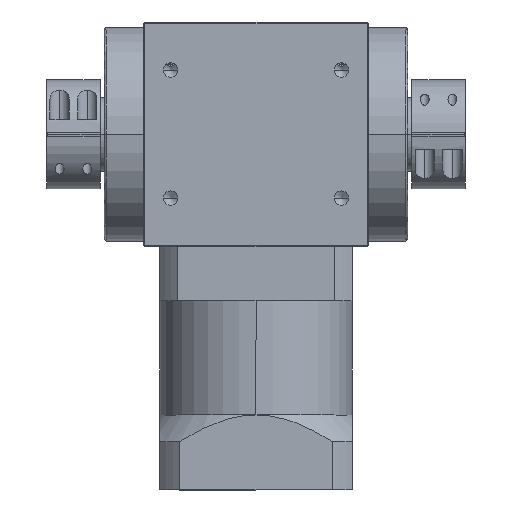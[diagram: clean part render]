
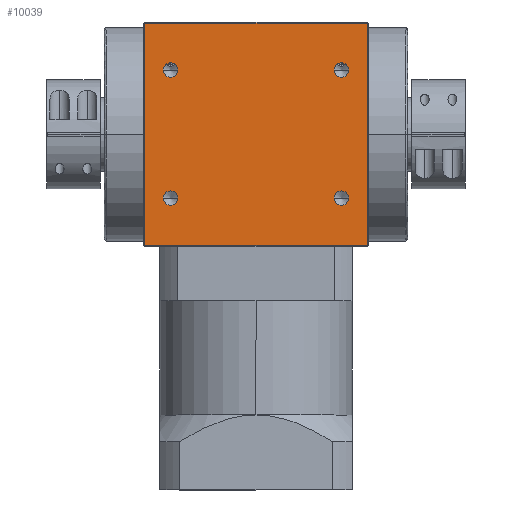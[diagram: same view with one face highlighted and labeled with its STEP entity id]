
A CAD part, top view. The second image highlights one B-rep face of the part: STEP entity #10039.
In plain terms, the highlighted planar face has unit normal (0, 0, 1).
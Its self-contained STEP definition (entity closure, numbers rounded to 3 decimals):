
#32 = FACE_BOUND ( 'NONE', #9019, .T. ) ;
#255 = DIRECTION ( 'NONE',  ( 1., 0., 0. ) ) ;
#267 = DIRECTION ( 'NONE',  ( 0., 0., 1. ) ) ;
#272 = CARTESIAN_POINT ( 'NONE',  ( -40., 30., 52.5 ) ) ;
#285 = AXIS2_PLACEMENT_3D ( 'NONE', #4742, #7116, #4005 ) ;
#286 = DIRECTION ( 'NONE',  ( 0., 1., 0. ) ) ;
#287 = CARTESIAN_POINT ( 'NONE',  ( -52., -52., 52.5 ) ) ;
#545 = DIRECTION ( 'NONE',  ( 1., 0., 0. ) ) ;
#546 = DIRECTION ( 'NONE',  ( 0., 0., 1. ) ) ;
#560 = CARTESIAN_POINT ( 'NONE',  ( -40., 30., 52.5 ) ) ;
#839 = DIRECTION ( 'NONE',  ( 1., 0., 0. ) ) ;
#841 = DIRECTION ( 'NONE',  ( 0., 0., 1. ) ) ;
#849 = CARTESIAN_POINT ( 'NONE',  ( -40., -30., 52.5 ) ) ;
#899 = CARTESIAN_POINT ( 'NONE',  ( -36.6, 30., 52.5 ) ) ;
#1059 = VERTEX_POINT ( 'NONE', #4650 ) ;
#1173 = CIRCLE ( 'NONE', #5613, 3.4 ) ;
#1226 = CARTESIAN_POINT ( 'NONE',  ( -36.6, -30., 52.5 ) ) ;
#1234 = CIRCLE ( 'NONE', #5748, 3.4 ) ;
#1328 = CARTESIAN_POINT ( 'NONE',  ( -43.4, -30., 52.5 ) ) ;
#1358 = CARTESIAN_POINT ( 'NONE',  ( 52., -52., 52.5 ) ) ;
#1427 = CARTESIAN_POINT ( 'NONE',  ( -40., -30., 52.5 ) ) ;
#1461 = DIRECTION ( 'NONE',  ( 0., 0., 1. ) ) ;
#1547 = DIRECTION ( 'NONE',  ( 1., 0., 0. ) ) ;
#1553 = CIRCLE ( 'NONE', #6099, 3.4 ) ;
#1641 = AXIS2_PLACEMENT_3D ( 'NONE', #7879, #7870, #7868 ) ;
#1703 = FACE_BOUND ( 'NONE', #10840, .T. ) ;
#1716 = ORIENTED_EDGE ( 'NONE', *, *, #2122, .F. ) ;
#1744 = VERTEX_POINT ( 'NONE', #2269 ) ;
#1901 = ORIENTED_EDGE ( 'NONE', *, *, #2329, .F. ) ;
#2122 = EDGE_CURVE ( 'NONE', #4533, #4570, #1234, .T. ) ;
#2143 = CARTESIAN_POINT ( 'NONE',  ( 43.4, 30., 52.5 ) ) ;
#2145 = CARTESIAN_POINT ( 'NONE',  ( 36.6, 30., 52.5 ) ) ;
#2180 = EDGE_CURVE ( 'NONE', #7622, #5166, #1173, .T. ) ;
#2223 = CIRCLE ( 'NONE', #6077, 3.4 ) ;
#2257 = ORIENTED_EDGE ( 'NONE', *, *, #8417, .F. ) ;
#2269 = CARTESIAN_POINT ( 'NONE',  ( 36.6, -30., 52.5 ) ) ;
#2329 = EDGE_CURVE ( 'NONE', #1059, #1744, #2223, .T. ) ;
#2409 = ORIENTED_EDGE ( 'NONE', *, *, #7608, .T. ) ;
#2517 = FACE_BOUND ( 'NONE', #10559, .T. ) ;
#2838 = DIRECTION ( 'NONE',  ( -1., 0., 0. ) ) ;
#3140 = VERTEX_POINT ( 'NONE', #6796 ) ;
#3206 = VERTEX_POINT ( 'NONE', #6520 ) ;
#3246 = ORIENTED_EDGE ( 'NONE', *, *, #8473, .F. ) ;
#3419 = VERTEX_POINT ( 'NONE', #5707 ) ;
#3622 = DIRECTION ( 'NONE',  ( 0., -1., 0. ) ) ;
#3782 = VERTEX_POINT ( 'NONE', #4577 ) ;
#3893 = FACE_OUTER_BOUND ( 'NONE', #8966, .T. ) ;
#3974 = AXIS2_PLACEMENT_3D ( 'NONE', #1427, #1461, #1547 ) ;
#4005 = DIRECTION ( 'NONE',  ( 1., 0., 0. ) ) ;
#4406 = LINE ( 'NONE', #287, #4684 ) ;
#4412 = CARTESIAN_POINT ( 'NONE',  ( -43.4, 30., 52.5 ) ) ;
#4416 = CIRCLE ( 'NONE', #7791, 3.4 ) ;
#4533 = VERTEX_POINT ( 'NONE', #1328 ) ;
#4570 = VERTEX_POINT ( 'NONE', #1226 ) ;
#4577 = CARTESIAN_POINT ( 'NONE',  ( -52., -52., 52.5 ) ) ;
#4650 = CARTESIAN_POINT ( 'NONE',  ( 43.4, -30., 52.5 ) ) ;
#4684 = VECTOR ( 'NONE', #286, 1000. ) ;
#4713 = CIRCLE ( 'NONE', #9994, 3.4 ) ;
#4742 = CARTESIAN_POINT ( 'NONE',  ( 40., 30., 52.5 ) ) ;
#4760 = CARTESIAN_POINT ( 'NONE',  ( 52., 52., 52.5 ) ) ;
#4833 = DIRECTION ( 'NONE',  ( -1., 0., 0. ) ) ;
#5073 = ORIENTED_EDGE ( 'NONE', *, *, #8383, .F. ) ;
#5166 = VERTEX_POINT ( 'NONE', #899 ) ;
#5309 = FACE_BOUND ( 'NONE', #9800, .T. ) ;
#5374 = CIRCLE ( 'NONE', #285, 3.4 ) ;
#5597 = VERTEX_POINT ( 'NONE', #2143 ) ;
#5613 = AXIS2_PLACEMENT_3D ( 'NONE', #560, #546, #545 ) ;
#5707 = CARTESIAN_POINT ( 'NONE',  ( 52., -52., 52.5 ) ) ;
#5748 = AXIS2_PLACEMENT_3D ( 'NONE', #849, #841, #839 ) ;
#6077 = AXIS2_PLACEMENT_3D ( 'NONE', #11170, #11159, #11155 ) ;
#6099 = AXIS2_PLACEMENT_3D ( 'NONE', #10661, #10650, #10649 ) ;
#6223 = ORIENTED_EDGE ( 'NONE', *, *, #8629, .F. ) ;
#6508 = ORIENTED_EDGE ( 'NONE', *, *, #9650, .F. ) ;
#6520 = CARTESIAN_POINT ( 'NONE',  ( -52., 52., 52.5 ) ) ;
#6796 = CARTESIAN_POINT ( 'NONE',  ( 52., 52., 52.5 ) ) ;
#7116 = DIRECTION ( 'NONE',  ( 0., 0., 1. ) ) ;
#7167 = VECTOR ( 'NONE', #2838, 1000. ) ;
#7299 = ORIENTED_EDGE ( 'NONE', *, *, #2180, .F. ) ;
#7608 = EDGE_CURVE ( 'NONE', #3140, #3206, #11016, .T. ) ;
#7622 = VERTEX_POINT ( 'NONE', #4412 ) ;
#7637 = ORIENTED_EDGE ( 'NONE', *, *, #8722, .F. ) ;
#7791 = AXIS2_PLACEMENT_3D ( 'NONE', #272, #267, #255 ) ;
#7868 = DIRECTION ( 'NONE',  ( -1., 0., 0. ) ) ;
#7870 = DIRECTION ( 'NONE',  ( 0., 0., -1. ) ) ;
#7879 = CARTESIAN_POINT ( 'NONE',  ( 52., -52., 52.5 ) ) ;
#7939 = LINE ( 'NONE', #1358, #7167 ) ;
#7975 = PLANE ( 'NONE',  #1641 ) ;
#7992 = VERTEX_POINT ( 'NONE', #2145 ) ;
#8029 = LINE ( 'NONE', #10713, #8283 ) ;
#8283 = VECTOR ( 'NONE', #3622, 1000. ) ;
#8383 = EDGE_CURVE ( 'NONE', #5166, #7622, #4416, .T. ) ;
#8399 = EDGE_CURVE ( 'NONE', #3782, #3206, #4406, .T. ) ;
#8417 = EDGE_CURVE ( 'NONE', #5597, #7992, #5374, .T. ) ;
#8473 = EDGE_CURVE ( 'NONE', #3419, #3782, #7939, .T. ) ;
#8593 = EDGE_CURVE ( 'NONE', #3140, #3419, #8029, .T. ) ;
#8629 = EDGE_CURVE ( 'NONE', #4570, #4533, #10133, .T. ) ;
#8722 = EDGE_CURVE ( 'NONE', #1744, #1059, #4713, .T. ) ;
#8966 = EDGE_LOOP ( 'NONE', ( #9508, #2409, #10120, #3246 ) ) ;
#9019 = EDGE_LOOP ( 'NONE', ( #2257, #6508 ) ) ;
#9508 = ORIENTED_EDGE ( 'NONE', *, *, #8593, .F. ) ;
#9650 = EDGE_CURVE ( 'NONE', #7992, #5597, #1553, .T. ) ;
#9800 = EDGE_LOOP ( 'NONE', ( #1901, #7637 ) ) ;
#9994 = AXIS2_PLACEMENT_3D ( 'NONE', #10334, #10320, #10307 ) ;
#10039 = ADVANCED_FACE ( 'NONE', ( #3893, #2517, #32, #1703, #5309 ), #7975, .F. ) ;
#10120 = ORIENTED_EDGE ( 'NONE', *, *, #8399, .F. ) ;
#10133 = CIRCLE ( 'NONE', #3974, 3.4 ) ;
#10208 = VECTOR ( 'NONE', #4833, 1000. ) ;
#10307 = DIRECTION ( 'NONE',  ( 1., 0., 0. ) ) ;
#10320 = DIRECTION ( 'NONE',  ( 0., 0., 1. ) ) ;
#10334 = CARTESIAN_POINT ( 'NONE',  ( 40., -30., 52.5 ) ) ;
#10559 = EDGE_LOOP ( 'NONE', ( #5073, #7299 ) ) ;
#10649 = DIRECTION ( 'NONE',  ( 1., 0., 0. ) ) ;
#10650 = DIRECTION ( 'NONE',  ( 0., 0., 1. ) ) ;
#10661 = CARTESIAN_POINT ( 'NONE',  ( 40., 30., 52.5 ) ) ;
#10713 = CARTESIAN_POINT ( 'NONE',  ( 52., -52., 52.5 ) ) ;
#10840 = EDGE_LOOP ( 'NONE', ( #6223, #1716 ) ) ;
#11016 = LINE ( 'NONE', #4760, #10208 ) ;
#11155 = DIRECTION ( 'NONE',  ( 1., 0., 0. ) ) ;
#11159 = DIRECTION ( 'NONE',  ( 0., 0., 1. ) ) ;
#11170 = CARTESIAN_POINT ( 'NONE',  ( 40., -30., 52.5 ) ) ;
